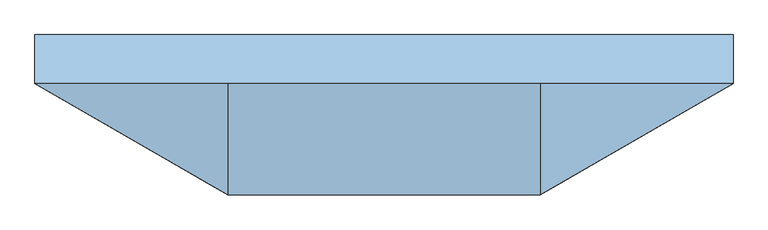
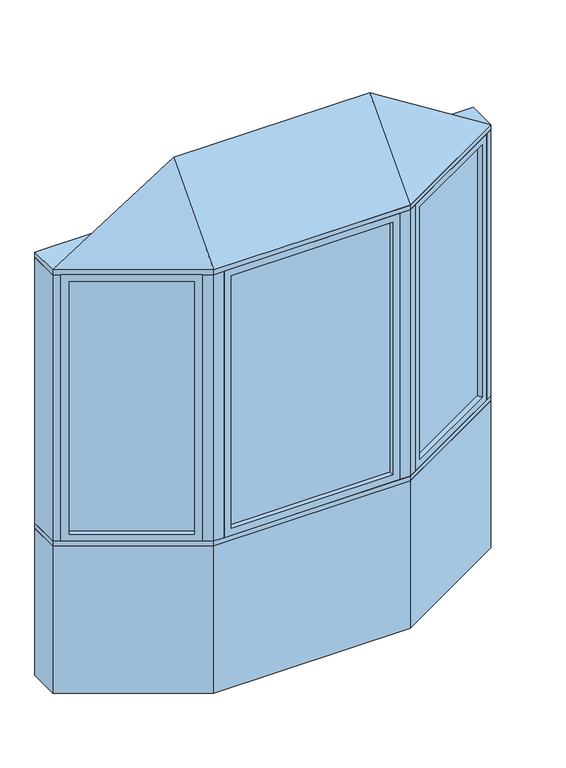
"""IFC4 building model written with IfcOpenShell, lengths in millimetres: window geometry, Pollard_Windows_Tudor Casement Bows and Bays : AML-BAY 30 AFR0514-12-600."""

from ifc_helpers import new_model, si_unit, frame, origin, origin_with_axes, place, context, project, spatial, polyline, outline, extrude, faceted_brep, source, transform, mapped, element, save


def window_0c01a5ed(model_context):
    return source(origin(), model_context, "Body", "SolidModel", [
        extrude(outline(polyline([(1026.612102, -82.0482469), (538.3834764, -363.9271754), (535.8434764, -359.5277664), (1024.072102, -77.6488379), (1026.612102, -82.0482469)])), frame((0.0, 0.0, 823.1628), z_axis=(0.0, 0.0, 1.0), x_axis=(1.0, 0.0, 0.0)), (0.0, 0.0, 1.0), 1353.6704),
        faceted_brep([(1015.6135794, -88.3982469, 835.8628), (1028.3135794, -110.3952922, 835.8628), (1028.3135794, -110.3952922, 2164.1332), (1015.6135794, -88.3982469, 2164.1332), (1024.072102, -77.6488379, 823.1628), (1026.612102, -82.0482469, 823.1628), (1026.612102, -82.0482469, 2176.8332), (1024.072102, -77.6488379, 2176.8332), (1000.3735794, -62.0017926, 835.8628), (1013.0735794, -83.9988379, 835.8628), (1013.0735794, -83.9988379, 2164.1332), (1000.3735794, -62.0017926, 2164.1332), (1059.3734073, -92.4628922, 799.998), (1031.4334073, -44.0693926, 799.998), (1031.4334073, -44.0693926, 2199.998), (1059.3734073, -92.4628922, 2199.998), (562.081999, -379.5742207, 2164.1332), (549.381999, -357.5771754, 2164.1332), (538.3834764, -363.9271754, 2176.8332), (535.8434764, -359.5277664, 2176.8332), (546.841999, -353.1777664, 2164.1332), (534.141999, -331.1807211, 2164.1332), (503.0821711, -349.1131211, 2199.998), (531.0221711, -397.5066207, 2199.998), (562.081999, -379.5742207, 835.8628), (549.381999, -357.5771754, 835.8628), (538.3834764, -363.9271754, 823.1628), (535.8434764, -359.5277664, 823.1628), (546.841999, -353.1777664, 835.8628), (534.141999, -331.1807211, 835.8628), (503.0821711, -349.1131211, 799.998), (531.0221711, -397.5066207, 799.998)], [[[0, 1, 2, 3]], [[4, 5, 6, 7]], [[8, 9, 10, 11]], [[12, 13, 14, 15]], [[3, 2, 16, 17]], [[7, 6, 18, 19]], [[11, 10, 20, 21]], [[15, 14, 22, 23]], [[17, 16, 24, 25]], [[19, 18, 26, 27]], [[21, 20, 28, 29]], [[23, 22, 30, 31]], [[25, 24, 1, 0]], [[5, 26, 18, 6], [3, 17, 25, 0]], [[27, 26, 5, 4]], [[7, 19, 27, 4], [9, 28, 20, 10]], [[29, 28, 9, 8]], [[13, 30, 22, 14], [11, 21, 29, 8]], [[31, 30, 13, 12]], [[15, 23, 31, 12], [1, 24, 16, 2]]]),
        extrude(outline(polyline([(-538.3834764, -363.9271754), (-1026.612102, -82.0482469), (-1024.072102, -77.6488379), (-535.8434764, -359.5277664), (-538.3834764, -363.9271754)])), frame((0.0, 0.0, 823.1628), z_axis=(0.0, 0.0, 1.0), x_axis=(1.0, 0.0, 0.0)), (0.0, 0.0, 1.0), 1353.6704),
        faceted_brep([(-546.841999, -353.1777664, 2164.1332), (-534.141999, -331.1807211, 2164.1332), (-534.141999, -331.1807211, 835.8628), (-546.841999, -353.1777664, 835.8628), (-538.3834764, -363.9271754, 2176.8332), (-535.8434764, -359.5277664, 2176.8332), (-535.8434764, -359.5277664, 823.1628), (-538.3834764, -363.9271754, 823.1628), (-562.081999, -379.5742207, 2164.1332), (-549.381999, -357.5771754, 2164.1332), (-549.381999, -357.5771754, 835.8628), (-562.081999, -379.5742207, 835.8628), (-503.0821711, -349.1131211, 2199.998), (-531.0221711, -397.5066207, 2199.998), (-531.0221711, -397.5066207, 799.998), (-503.0821711, -349.1131211, 799.998), (-1000.3735794, -62.0017926, 835.8628), (-1013.0735794, -83.9988379, 835.8628), (-1024.072102, -77.6488379, 823.1628), (-1026.612102, -82.0482469, 823.1628), (-1015.6135794, -88.3982469, 835.8628), (-1028.3135794, -110.3952922, 835.8628), (-1059.3734073, -92.4628922, 799.998), (-1031.4334073, -44.0693926, 799.998), (-1000.3735794, -62.0017926, 2164.1332), (-1013.0735794, -83.9988379, 2164.1332), (-1024.072102, -77.6488379, 2176.8332), (-1026.612102, -82.0482469, 2176.8332), (-1015.6135794, -88.3982469, 2164.1332), (-1028.3135794, -110.3952922, 2164.1332), (-1059.3734073, -92.4628922, 2199.998), (-1031.4334073, -44.0693926, 2199.998)], [[[0, 1, 2, 3]], [[4, 5, 6, 7]], [[8, 9, 10, 11]], [[12, 13, 14, 15]], [[3, 2, 16, 17]], [[7, 6, 18, 19]], [[11, 10, 20, 21]], [[15, 14, 22, 23]], [[17, 16, 24, 25]], [[19, 18, 26, 27]], [[21, 20, 28, 29]], [[23, 22, 30, 31]], [[15, 23, 31, 12], [1, 24, 16, 2]], [[25, 24, 1, 0]], [[5, 26, 18, 6], [3, 17, 25, 0]], [[27, 26, 5, 4]], [[7, 19, 27, 4], [9, 28, 20, 10]], [[29, 28, 9, 8]], [[13, 30, 22, 14], [11, 21, 29, 8]], [[31, 30, 13, 12]]]),
        extrude(outline(polyline([(414.5561009, -397.1066207), (-414.5561009, -397.1066207), (-414.5561009, -392.0266207), (414.5561009, -392.0266207), (414.5561009, -397.1066207)])), frame((0.0, 0.0, 823.1628), z_axis=(0.0, 0.0, 1.0), x_axis=(1.0, 0.0, 0.0)), (0.0, 0.0, 1.0), 1353.6704),
        faceted_brep([(401.8561009, -397.1066207, 835.8628), (401.8561009, -422.5066207, 835.8628), (401.8561009, -422.5066207, 2164.1332), (401.8561009, -397.1066207, 2164.1332), (414.5561009, -392.0266207, 823.1628), (414.5561009, -397.1066207, 823.1628), (414.5561009, -397.1066207, 2176.8332), (414.5561009, -392.0266207, 2176.8332), (401.8561009, -366.6266207, 835.8628), (401.8561009, -392.0266207, 835.8628), (401.8561009, -392.0266207, 2164.1332), (401.8561009, -366.6266207, 2164.1332), (437.7209009, -422.5066207, 799.998), (437.7209009, -366.6266207, 799.998), (437.7209009, -366.6266207, 2199.998), (437.7209009, -422.5066207, 2199.998), (-401.8561009, -422.5066207, 2164.1332), (-401.8561009, -397.1066207, 2164.1332), (-414.5561009, -397.1066207, 2176.8332), (-414.5561009, -392.0266207, 2176.8332), (-401.8561009, -392.0266207, 2164.1332), (-401.8561009, -366.6266207, 2164.1332), (-437.7209009, -366.6266207, 2199.998), (-437.7209009, -422.5066207, 2199.998), (-401.8561009, -422.5066207, 835.8628), (-401.8561009, -397.1066207, 835.8628), (-414.5561009, -397.1066207, 823.1628), (-414.5561009, -392.0266207, 823.1628), (-401.8561009, -392.0266207, 835.8628), (-401.8561009, -366.6266207, 835.8628), (-437.7209009, -366.6266207, 799.998), (-437.7209009, -422.5066207, 799.998)], [[[0, 1, 2, 3]], [[4, 5, 6, 7]], [[8, 9, 10, 11]], [[12, 13, 14, 15]], [[3, 2, 16, 17]], [[7, 6, 18, 19]], [[11, 10, 20, 21]], [[15, 14, 22, 23]], [[17, 16, 24, 25]], [[19, 18, 26, 27]], [[21, 20, 28, 29]], [[23, 22, 30, 31]], [[15, 23, 31, 12], [1, 24, 16, 2]], [[25, 24, 1, 0]], [[5, 26, 18, 6], [3, 17, 25, 0]], [[27, 26, 5, 4]], [[7, 19, 27, 4], [9, 28, 20, 10]], [[29, 28, 9, 8]], [[13, 30, 22, 14], [11, 21, 29, 8]], [[31, 30, 13, 12]]]),
        faceted_brep([(1090.0, -74.7806207, 2225.398), (487.7209009, -422.5066207, 2225.398), (-487.7209009, -422.5066207, 2225.398), (-1090.0, -74.7806207, 2225.398), (-487.7209009, -74.7806207, 2606.398), (487.7209009, -74.7806207, 2606.398)], [[[0, 1, 2, 3]], [[3, 2, 4]], [[2, 1, 5, 4]], [[1, 0, 5]], [[0, 3, 4, 5]]]),
        extrude(outline(polyline([(-1090.0, 77.6193793), (1090.0, 77.6193793), (1090.0, -74.7806207), (487.7209009, -422.5066207), (-487.7209009, -422.5066207), (-1090.0, -74.7806207), (-1090.0, 77.6193793)])), frame((0.0, 0.0, 2199.998), z_axis=(0.0, 0.0, 1.0), x_axis=(1.0, 0.0, 0.0)), (0.0, 0.0, 1.0), 25.4),
        extrude(outline(polyline([(-1090.0, -74.7806207), (-1090.0, 77.6193793), (-1049.1645431, 77.6193793), (-1049.1645431, -74.7806207), (-1059.3734073, -92.4628922), (-1090.0, -74.7806207)])), frame((0.0, 0.0, 799.998), z_axis=(0.0, 0.0, 1.0), x_axis=(1.0, 0.0, 0.0)), (0.0, 0.0, 1.0), 1400.0),
        extrude(outline(polyline([(1090.0, 77.6193793), (1090.0, -74.7806207), (1059.3734073, -92.4628922), (1049.1645431, -74.7806207), (1049.1645431, 77.6193793), (1090.0, 77.6193793)])), frame((0.0, 0.0, 799.998), z_axis=(0.0, 0.0, 1.0), x_axis=(1.0, 0.0, 0.0)), (0.0, 0.0, 1.0), 1400.0),
        extrude(outline(polyline([(487.7209009, -422.5066207), (437.7209009, -422.5066207), (437.7209009, -372.5066207), (474.3234413, -372.5066207), (506.0221711, -354.2053505), (531.0221711, -397.5066207), (487.7209009, -422.5066207)])), frame((0.0, 0.0, 799.998), z_axis=(0.0, 0.0, 1.0), x_axis=(1.0, 0.0, 0.0)), (0.0, 0.0, 1.0), 1400.0),
        extrude(outline(polyline([(-487.7209009, -422.5066207), (-531.0221711, -397.5066207), (-506.0221711, -354.2053505), (-474.3234413, -372.5066207), (-437.7209009, -372.5066207), (-437.7209009, -422.5066207), (-487.7209009, -422.5066207)])), frame((0.0, 0.0, 799.998), z_axis=(0.0, 0.0, 1.0), x_axis=(1.0, 0.0, 0.0)), (0.0, 0.0, 1.0), 1400.0),
        extrude(outline(polyline([(-487.7209009, -422.5066207), (-1090.0, -74.7806207), (-1090.0, 77.6193793), (-1049.1645431, 77.6193793), (-446.885444, -270.1066207), (446.885444, -270.1066207), (1049.1645431, 77.6193793), (1090.0, 77.6193793), (1090.0, -74.7806207), (487.7209009, -422.5066207), (-487.7209009, -422.5066207)])), frame((0.0, 0.0, 774.598), z_axis=(0.0, 0.0, 1.0), x_axis=(1.0, 0.0, 0.0)), (0.0, 0.0, 1.0), 25.4),
        extrude(outline(polyline([(-1090.0, -74.7806207), (-1090.0, 77.6193793), (-1049.1645431, 77.6193793), (-446.885444, -270.1066207), (446.885444, -270.1066207), (1049.1645431, 77.6193793), (1090.0, 77.6193793), (1090.0, -74.7806207), (487.7209009, -422.5066207), (-487.7209009, -422.5066207), (-1090.0, -74.7806207)])), origin_with_axes(), (0.0, 0.0, 1.0), 774.598),
    ])


if __name__ == "__main__":
    model = new_model("IFC4")
    model_context = context("Model", 3, world=origin())
    ifc_project = project(units=[si_unit("LENGTHUNIT", "METRE", prefix="MILLI")], contexts=[model_context])
    site = spatial("IfcSite", under=ifc_project)
    building = spatial("IfcBuilding", under=site)
    placement = place(None, origin())
    window_shape = window_0c01a5ed(model_context)
    element("IfcWindow", 1, ObjectType="Pollard_Windows_Tudor Casement Bows and Bays : AML-BAY 30 AFR0514-12-600", at=placement, inside=building, context=model_context, shape_type="MappedRepresentation", body=[
        mapped(window_shape, transform((0.0, 0.0, 0.0), x_axis=(1.0, 0.0, 0.0), y_axis=(0.0, 1.0, 0.0), z_axis=(0.0, 0.0, 1.0))),
    ])
    save(model, "model.ifc")
